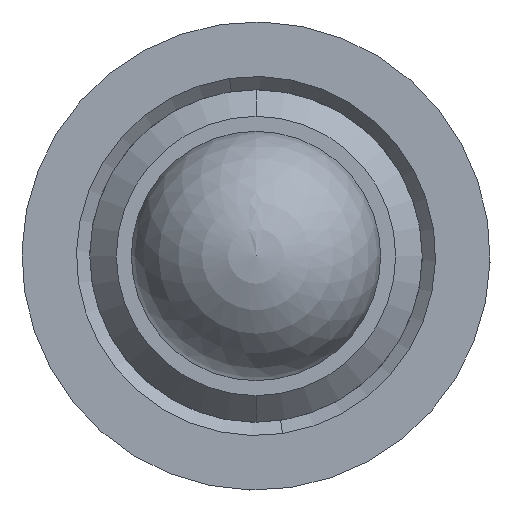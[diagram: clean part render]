
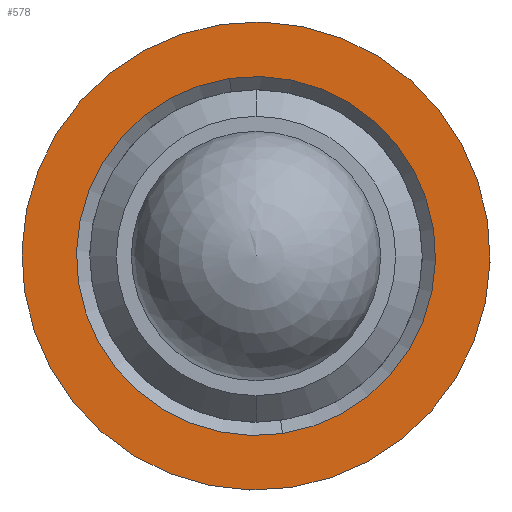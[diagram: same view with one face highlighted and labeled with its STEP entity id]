
A CAD part, left-side view. The second image highlights one B-rep face of the part: STEP entity #578.
In plain terms, the highlighted planar face has unit normal (-1, 0, 0).
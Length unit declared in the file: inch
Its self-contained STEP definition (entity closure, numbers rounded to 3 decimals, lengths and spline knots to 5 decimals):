
#4 = AXIS2_PLACEMENT_3D ( 'NONE', #1006, #1015, #1025 ) ;
#40 = ORIENTED_EDGE ( 'NONE', *, *, #1442, .T. ) ;
#76 = DIRECTION ( 'NONE',  ( 0., -0.148, -0.989 ) ) ;
#117 = ORIENTED_EDGE ( 'NONE', *, *, #1506, .T. ) ;
#146 = CARTESIAN_POINT ( 'NONE',  ( 0.2567, 1.22139, 1.67455 ) ) ;
#185 = CIRCLE ( 'NONE', #546, 0.135 ) ;
#236 = ORIENTED_EDGE ( 'NONE', *, *, #1455, .T. ) ;
#242 = AXIS2_PLACEMENT_3D ( 'NONE', #1453, #1001, #272 ) ;
#262 = VERTEX_POINT ( 'NONE', #288 ) ;
#272 = DIRECTION ( 'NONE',  ( 0., 0.148, 0.989 ) ) ;
#282 = DIRECTION ( 'NONE',  ( 1., 0., 0. ) ) ;
#288 = CARTESIAN_POINT ( 'NONE',  ( 0.2567, 1.18144, 1.40753 ) ) ;
#308 = FACE_OUTER_BOUND ( 'NONE', #622, .T. ) ;
#420 = EDGE_LOOP ( 'NONE', ( #40, #117 ) ) ;
#503 = CIRCLE ( 'NONE', #242, 0.176 ) ;
#507 = CARTESIAN_POINT ( 'NONE',  ( 0.2567, 1.20142, 1.54104 ) ) ;
#521 = CARTESIAN_POINT ( 'NONE',  ( 0.2567, 1.17538, 1.36698 ) ) ;
#542 = DIRECTION ( 'NONE',  ( 0., -0.148, -0.989 ) ) ;
#546 = AXIS2_PLACEMENT_3D ( 'NONE', #887, #1139, #76 ) ;
#578 = ADVANCED_FACE ( 'NONE', ( #1255, #308 ), #1115, .F. ) ;
#619 = AXIS2_PLACEMENT_3D ( 'NONE', #1027, #1018, #717 ) ;
#622 = EDGE_LOOP ( 'NONE', ( #1386, #236 ) ) ;
#717 = DIRECTION ( 'NONE',  ( 0., 0.148, 0.989 ) ) ;
#887 = CARTESIAN_POINT ( 'NONE',  ( 0.2567, 1.20142, 1.54104 ) ) ;
#900 = VERTEX_POINT ( 'NONE', #521 ) ;
#972 = AXIS2_PLACEMENT_3D ( 'NONE', #507, #282, #542 ) ;
#1001 = DIRECTION ( 'NONE',  ( -1., 0., 0. ) ) ;
#1006 = CARTESIAN_POINT ( 'NONE',  ( 0.2567, 1.20142, 1.54104 ) ) ;
#1015 = DIRECTION ( 'NONE',  ( 1., 0., 0. ) ) ;
#1018 = DIRECTION ( 'NONE',  ( -1., 0., 0. ) ) ;
#1025 = DIRECTION ( 'NONE',  ( 0., -0.148, -0.989 ) ) ;
#1027 = CARTESIAN_POINT ( 'NONE',  ( 0.2567, 1.20142, 1.54104 ) ) ;
#1065 = CIRCLE ( 'NONE', #619, 0.176 ) ;
#1115 = PLANE ( 'NONE',  #972 ) ;
#1134 = CIRCLE ( 'NONE', #4, 0.135 ) ;
#1139 = DIRECTION ( 'NONE',  ( 1., 0., 0. ) ) ;
#1149 = VERTEX_POINT ( 'NONE', #1355 ) ;
#1255 = FACE_BOUND ( 'NONE', #420, .T. ) ;
#1332 = VERTEX_POINT ( 'NONE', #146 ) ;
#1355 = CARTESIAN_POINT ( 'NONE',  ( 0.2567, 1.22746, 1.7151 ) ) ;
#1386 = ORIENTED_EDGE ( 'NONE', *, *, #1520, .T. ) ;
#1442 = EDGE_CURVE ( 'NONE', #1332, #262, #185, .T. ) ;
#1453 = CARTESIAN_POINT ( 'NONE',  ( 0.2567, 1.20142, 1.54104 ) ) ;
#1455 = EDGE_CURVE ( 'NONE', #900, #1149, #1065, .T. ) ;
#1506 = EDGE_CURVE ( 'NONE', #262, #1332, #1134, .T. ) ;
#1520 = EDGE_CURVE ( 'NONE', #1149, #900, #503, .T. ) ;
